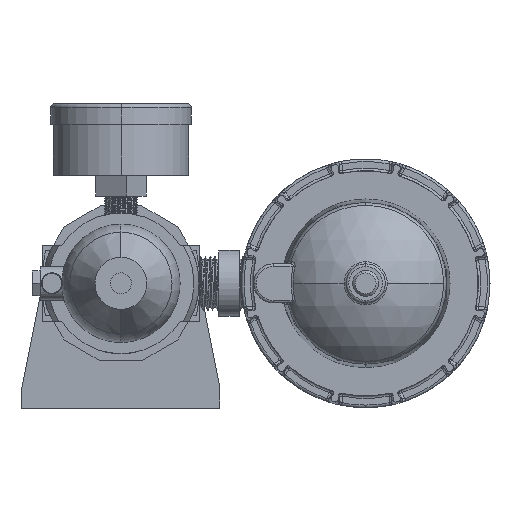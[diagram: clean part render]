
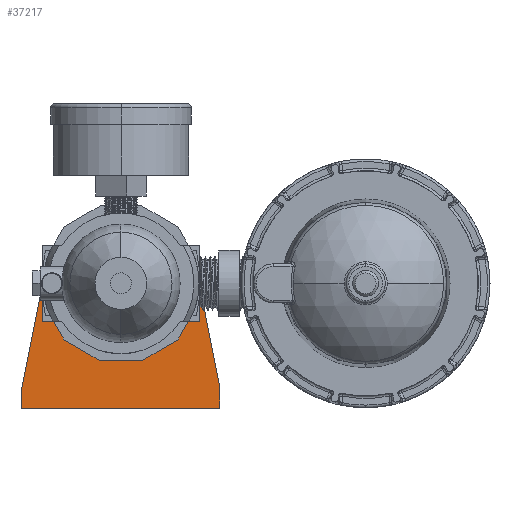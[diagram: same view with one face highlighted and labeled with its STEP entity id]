
A CAD part, front view. The second image highlights one B-rep face of the part: STEP entity #37217.
In plain terms, the highlighted planar face has unit normal (0, -1, 0).
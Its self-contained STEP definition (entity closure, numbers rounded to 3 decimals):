
#580 = EDGE_CURVE ( 'NONE', #39373, #42867, #40820, .T. ) ;
#854 = AXIS2_PLACEMENT_3D ( 'NONE', #30161, #8071, #13018 ) ;
#1922 = EDGE_CURVE ( 'NONE', #24203, #43977, #46834, .T. ) ;
#3470 = ORIENTED_EDGE ( 'NONE', *, *, #46192, .F. ) ;
#3528 = EDGE_CURVE ( 'NONE', #12286, #15897, #45330, .T. ) ;
#3642 = LINE ( 'NONE', #10243, #46581 ) ;
#3739 = DIRECTION ( 'NONE',  ( 0.194, 0., 0.981 ) ) ;
#8071 = DIRECTION ( 'NONE',  ( 0., 1., 0. ) ) ;
#8984 = ORIENTED_EDGE ( 'NONE', *, *, #24834, .F. ) ;
#9772 = VECTOR ( 'NONE', #24217, 1000. ) ;
#10243 = CARTESIAN_POINT ( 'NONE',  ( -38., 0., -48. ) ) ;
#10325 = VERTEX_POINT ( 'NONE', #26926 ) ;
#10727 = CARTESIAN_POINT ( 'NONE',  ( 38., 0., -48. ) ) ;
#11119 = CARTESIAN_POINT ( 'NONE',  ( 38., 0., -40. ) ) ;
#11608 = DIRECTION ( 'NONE',  ( 0., 1., 0. ) ) ;
#12286 = VERTEX_POINT ( 'NONE', #11119 ) ;
#13018 = DIRECTION ( 'NONE',  ( 0., 0., 1. ) ) ;
#14067 = CARTESIAN_POINT ( 'NONE',  ( 0., 0., -24. ) ) ;
#14467 = ORIENTED_EDGE ( 'NONE', *, *, #22847, .T. ) ;
#15897 = VERTEX_POINT ( 'NONE', #10727 ) ;
#17591 = VERTEX_POINT ( 'NONE', #40499 ) ;
#21204 = AXIS2_PLACEMENT_3D ( 'NONE', #33675, #11608, #54842 ) ;
#21479 = ORIENTED_EDGE ( 'NONE', *, *, #32804, .F. ) ;
#21622 = DIRECTION ( 'NONE',  ( 0., 0., 1. ) ) ;
#22847 = EDGE_CURVE ( 'NONE', #43977, #24203, #56238, .T. ) ;
#24203 = VERTEX_POINT ( 'NONE', #32569 ) ;
#24217 = DIRECTION ( 'NONE',  ( 0.194, 0., -0.981 ) ) ;
#24301 = DIRECTION ( 'NONE',  ( 0., 1., 0. ) ) ;
#24313 = EDGE_LOOP ( 'NONE', ( #41429, #14467 ) ) ;
#24834 = EDGE_CURVE ( 'NONE', #15897, #39373, #3642, .T. ) ;
#24933 = FACE_OUTER_BOUND ( 'NONE', #29543, .T. ) ;
#25969 = DIRECTION ( 'NONE',  ( 0., 0., -1. ) ) ;
#26077 = CARTESIAN_POINT ( 'NONE',  ( -38., 0., -40. ) ) ;
#26926 = CARTESIAN_POINT ( 'NONE',  ( -28.937, 0., 5.734 ) ) ;
#29129 = CARTESIAN_POINT ( 'NONE',  ( 38., 0., -40. ) ) ;
#29299 = CIRCLE ( 'NONE', #21204, 29.5 ) ;
#29543 = EDGE_LOOP ( 'NONE', ( #51320, #43761, #8984, #46114, #3470, #21479 ) ) ;
#30161 = CARTESIAN_POINT ( 'NONE',  ( 0., 0., 0. ) ) ;
#32569 = CARTESIAN_POINT ( 'NONE',  ( 0., 0., 24. ) ) ;
#32804 = EDGE_CURVE ( 'NONE', #10325, #17591, #29299, .T. ) ;
#33675 = CARTESIAN_POINT ( 'NONE',  ( 0., 0., 0. ) ) ;
#34367 = CARTESIAN_POINT ( 'NONE',  ( -38., 0., -48. ) ) ;
#35579 = CARTESIAN_POINT ( 'NONE',  ( -38., 0., -48. ) ) ;
#36619 = DIRECTION ( 'NONE',  ( 0., 0., 1. ) ) ;
#36683 = DIRECTION ( 'NONE',  ( 0., 0., 1. ) ) ;
#37217 = ADVANCED_FACE ( 'NONE', ( #54220, #24933 ), #47702, .F. ) ;
#37411 = VECTOR ( 'NONE', #21622, 1000. ) ;
#37755 = EDGE_CURVE ( 'NONE', #42867, #10325, #43286, .T. ) ;
#38807 = CARTESIAN_POINT ( 'NONE',  ( -38., 0., -40. ) ) ;
#39373 = VERTEX_POINT ( 'NONE', #35579 ) ;
#40499 = CARTESIAN_POINT ( 'NONE',  ( 28.937, 0., 5.734 ) ) ;
#40820 = LINE ( 'NONE', #34367, #37411 ) ;
#41429 = ORIENTED_EDGE ( 'NONE', *, *, #1922, .T. ) ;
#42867 = VERTEX_POINT ( 'NONE', #26077 ) ;
#43127 = CARTESIAN_POINT ( 'NONE',  ( 38., 0., -48. ) ) ;
#43286 = LINE ( 'NONE', #38807, #46033 ) ;
#43761 = ORIENTED_EDGE ( 'NONE', *, *, #580, .F. ) ;
#43977 = VERTEX_POINT ( 'NONE', #14067 ) ;
#44550 = LINE ( 'NONE', #29129, #9772 ) ;
#44659 = DIRECTION ( 'NONE',  ( 0., 1., 0. ) ) ;
#45330 = LINE ( 'NONE', #43127, #55528 ) ;
#45481 = DIRECTION ( 'NONE',  ( -1., 0., 0. ) ) ;
#45643 = CARTESIAN_POINT ( 'NONE',  ( 0., 0., 0. ) ) ;
#46033 = VECTOR ( 'NONE', #3739, 1000. ) ;
#46114 = ORIENTED_EDGE ( 'NONE', *, *, #3528, .F. ) ;
#46192 = EDGE_CURVE ( 'NONE', #17591, #12286, #44550, .T. ) ;
#46581 = VECTOR ( 'NONE', #45481, 1000. ) ;
#46792 = AXIS2_PLACEMENT_3D ( 'NONE', #45643, #24301, #36683 ) ;
#46834 = CIRCLE ( 'NONE', #55589, 24. ) ;
#47702 = PLANE ( 'NONE',  #854 ) ;
#51320 = ORIENTED_EDGE ( 'NONE', *, *, #37755, .F. ) ;
#53951 = CARTESIAN_POINT ( 'NONE',  ( 0., 0., 0. ) ) ;
#54220 = FACE_BOUND ( 'NONE', #24313, .T. ) ;
#54842 = DIRECTION ( 'NONE',  ( 0., 0., 1. ) ) ;
#55528 = VECTOR ( 'NONE', #25969, 1000. ) ;
#55589 = AXIS2_PLACEMENT_3D ( 'NONE', #53951, #44659, #36619 ) ;
#56238 = CIRCLE ( 'NONE', #46792, 24. ) ;
